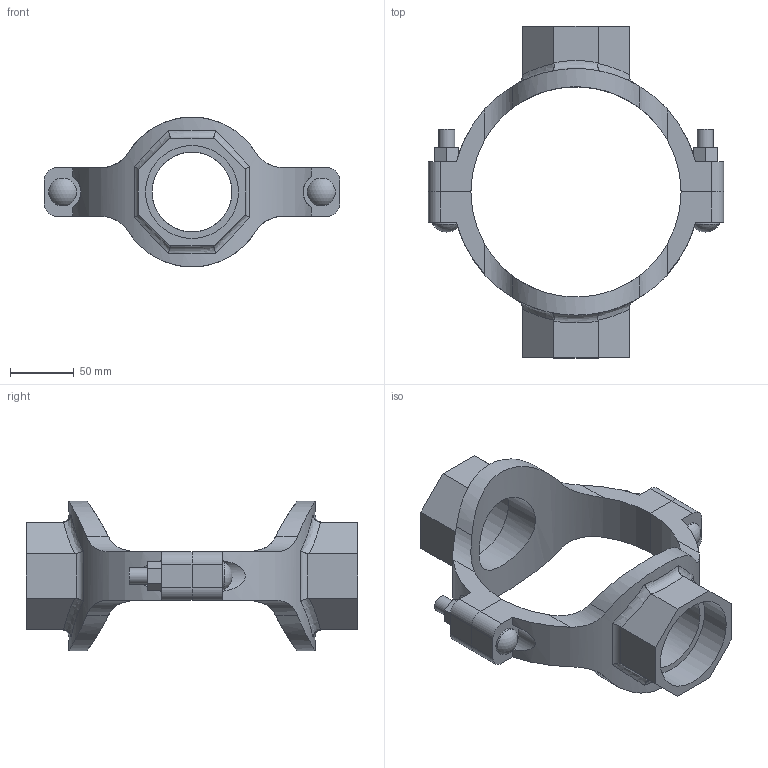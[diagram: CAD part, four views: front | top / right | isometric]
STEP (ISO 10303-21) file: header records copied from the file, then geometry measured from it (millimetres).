
FILE_DESCRIPTION(/* description */ ('VIC MECH-T BRANCH OUTLET CROSS STYLE 920N (THD)','CAx-IF Rec.Pracs.---Representation and Presentation of Product Manufacturing Information (PMI)---4.0---2014-10-13'),/* implementation_level */ '2;1');
FILE_NAME(/* name */ 'C:\Users\Vjadhav\AppData\Roaming\Autodesk\ApplicationPlugins\Back Up\Victaulic_IPS_Mechanical-Cross Outlet_Style 920N (FPT)\Victaulic_IPS_Mechanical-Cross Outlet_06.0 (165.1)x02.5x02.5 (150x65x65).stp',/* time_stamp */ '2020-08-06T19:00:20+06:00',/* author */ ('Vjadhav'),/* organization */ ('Victaulic'),/* preprocessor_version */ 'ST-DEVELOPER v17.2',/* originating_system */ 'Autodesk Inventor 2019',/* authorisation */ '');
FILE_SCHEMA (('AP242_MANAGED_MODEL_BASED_3D_ENGINEERING_MIM_LF { 1 0 10303 442 1 1 4 }'));
Length unit declared in the file: inch
Products named in the file (3): 920NT-06.0 (165.1)x02.5x02.5; 920NT-06.0 (165.1)x02.5; 920NT-06.0 (165.1)x02.5_1
Assembly tree (2 placements, depth 2):
  920NT-06.0 (165.1)x02.5x02.5
    920NT-06.0 (165.1)x02.5
    920NT-06.0 (165.1)x02.5_1
Bounding box: 231.9 x 260.6 x 117.6 mm (x, y, z)
Volume: 640790.7 mm3; surface area: 141990.1 mm2
Topology: 2 solids, 2 shells, 132 faces, 350 edges, 236 vertices
Faces by surface type: plane 68, cylinder 50, bspline 8, torus 4, sphere 2
Full cylindrical faces by diameter (mm): 12.7 x4, 21.982 x2, 62.738 x2, 73.025 x2
Entity records: 5294 total; most frequent: CARTESIAN_POINT 1781, ORIENTED_EDGE 700, DIRECTION 648, EDGE_CURVE 350, VERTEX_POINT 236, AXIS2_PLACEMENT_3D 231, LINE 186, VECTOR 186
